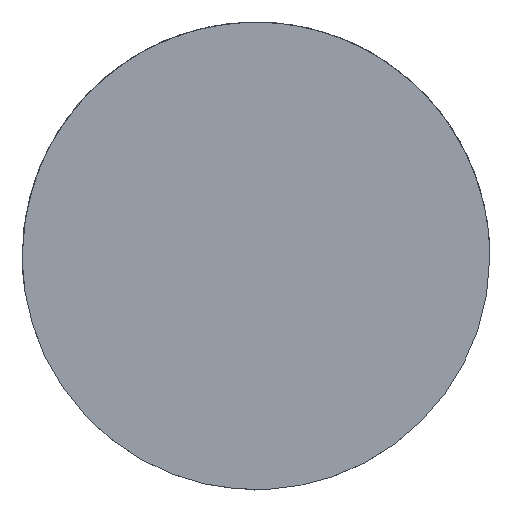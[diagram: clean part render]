
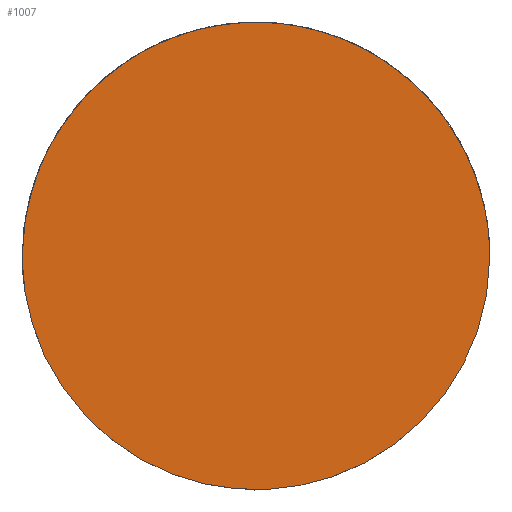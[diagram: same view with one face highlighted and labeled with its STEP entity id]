
A CAD part, top view. The second image highlights one B-rep face of the part: STEP entity #1007.
In plain terms, the highlighted planar face has unit normal (0, 0, 1).
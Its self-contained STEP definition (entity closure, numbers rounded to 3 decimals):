
#1007=ADVANCED_FACE('',(#1350),#5377,.T.);
#1350=FACE_OUTER_BOUND('',#1702,.T.);
#1702=EDGE_LOOP('',(#3284));
#3284=ORIENTED_EDGE('',*,*,#4233,.F.);
#4233=EDGE_CURVE('',#5260,#5260,#4634,.T.);
#4634=(
BOUNDED_CURVE()
B_SPLINE_CURVE(2,(#39409,#39410,#39411,#39412,#39413,#39414,#39415,#39416,
#39417),.UNSPECIFIED.,.T.,.F.)
B_SPLINE_CURVE_WITH_KNOTS((3,2,2,2,3),(0.,510.509,1021.018,
1531.526,2042.035),.UNSPECIFIED.)
CURVE()
GEOMETRIC_REPRESENTATION_ITEM()
RATIONAL_B_SPLINE_CURVE((1.,0.707,1.,0.707,1.,0.707,
1.,0.707,1.))
REPRESENTATION_ITEM('')
);
#5260=VERTEX_POINT('',#39408);
#5377=PLANE('',#5979);
#5979=AXIS2_PLACEMENT_3D('',#39407,#6297,$);
#6297=DIRECTION('',(0.,0.,1.));
#39407=CARTESIAN_POINT('',(4048.806,810.096,111.228));
#39408=CARTESIAN_POINT('',(4779.446,402.751,111.228));
#39409=CARTESIAN_POINT('',(4779.446,402.751,111.228));
#39410=CARTESIAN_POINT('',(4778.959,77.751,111.228));
#39411=CARTESIAN_POINT('',(4453.96,78.238,111.228));
#39412=CARTESIAN_POINT('',(4128.96,78.725,111.228));
#39413=CARTESIAN_POINT('',(4129.447,403.725,111.228));
#39414=CARTESIAN_POINT('',(4129.934,728.725,111.228));
#39415=CARTESIAN_POINT('',(4454.934,728.238,111.228));
#39416=CARTESIAN_POINT('',(4779.933,727.751,111.228));
#39417=CARTESIAN_POINT('',(4779.446,402.751,111.228));
